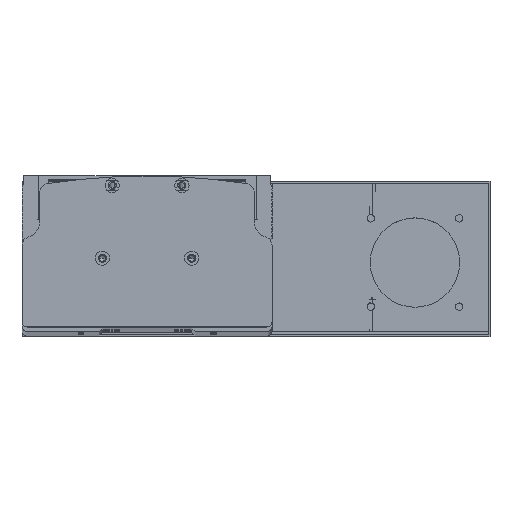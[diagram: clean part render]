
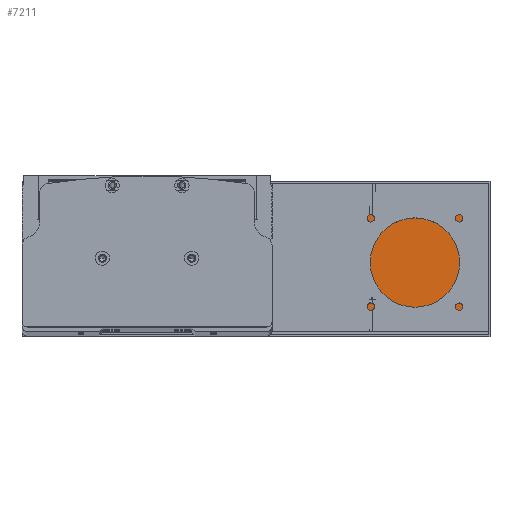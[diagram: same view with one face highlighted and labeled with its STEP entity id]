
A CAD part, top view. The second image highlights one B-rep face of the part: STEP entity #7211.
In plain terms, the highlighted planar face has unit normal (0, 0, 1).
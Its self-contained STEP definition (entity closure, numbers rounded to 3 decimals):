
#57 = DIRECTION ( 'NONE',  ( -1., 0., 0. ) ) ;
#137 = EDGE_CURVE ( 'NONE', #17990, #4711, #32918, .T. ) ;
#870 = VERTEX_POINT ( 'NONE', #25156 ) ;
#1466 = VERTEX_POINT ( 'NONE', #17331 ) ;
#3665 = CARTESIAN_POINT ( 'NONE',  ( 0., 0., 0. ) ) ;
#3732 = ORIENTED_EDGE ( 'NONE', *, *, #8916, .T. ) ;
#4251 = CARTESIAN_POINT ( 'NONE',  ( 130., -42.5, 0. ) ) ;
#4711 = VERTEX_POINT ( 'NONE', #25789 ) ;
#6690 = DIRECTION ( 'NONE',  ( 1., 0., 0. ) ) ;
#7211 = ADVANCED_FACE ( 'NONE', ( #27832 ), #21636, .T. ) ;
#8505 = AXIS2_PLACEMENT_3D ( 'NONE', #3665, #24770, #6690 ) ;
#8916 = EDGE_CURVE ( 'NONE', #870, #17990, #25421, .T. ) ;
#9020 = DIRECTION ( 'NONE',  ( 1., 0., 0. ) ) ;
#9339 = ORIENTED_EDGE ( 'NONE', *, *, #36935, .T. ) ;
#10568 = EDGE_CURVE ( 'NONE', #4711, #1466, #34703, .T. ) ;
#12715 = CARTESIAN_POINT ( 'NONE',  ( -130., -42.5, 0. ) ) ;
#14859 = ORIENTED_EDGE ( 'NONE', *, *, #10568, .T. ) ;
#16437 = VECTOR ( 'NONE', #33788, 1000. ) ;
#17331 = CARTESIAN_POINT ( 'NONE',  ( 130., 42.5, 0. ) ) ;
#17990 = VERTEX_POINT ( 'NONE', #26914 ) ;
#18122 = CARTESIAN_POINT ( 'NONE',  ( -130., 42.5, 0. ) ) ;
#18476 = VECTOR ( 'NONE', #57, 1000. ) ;
#20767 = ORIENTED_EDGE ( 'NONE', *, *, #137, .T. ) ;
#21636 = PLANE ( 'NONE',  #8505 ) ;
#24091 = CARTESIAN_POINT ( 'NONE',  ( -130., -42.5, 0. ) ) ;
#24770 = DIRECTION ( 'NONE',  ( 0., 0., 1. ) ) ;
#25156 = CARTESIAN_POINT ( 'NONE',  ( -130., 42.5, 0. ) ) ;
#25421 = LINE ( 'NONE', #12715, #16437 ) ;
#25686 = EDGE_LOOP ( 'NONE', ( #20767, #14859, #9339, #3732 ) ) ;
#25789 = CARTESIAN_POINT ( 'NONE',  ( 130., -42.5, 0. ) ) ;
#26914 = CARTESIAN_POINT ( 'NONE',  ( -130., -42.5, 0. ) ) ;
#27637 = VECTOR ( 'NONE', #31248, 1000. ) ;
#27832 = FACE_OUTER_BOUND ( 'NONE', #25686, .T. ) ;
#31248 = DIRECTION ( 'NONE',  ( 0., 1., 0. ) ) ;
#31951 = VECTOR ( 'NONE', #9020, 1000. ) ;
#32918 = LINE ( 'NONE', #24091, #31951 ) ;
#33788 = DIRECTION ( 'NONE',  ( 0., -1., 0. ) ) ;
#34525 = LINE ( 'NONE', #18122, #18476 ) ;
#34703 = LINE ( 'NONE', #4251, #27637 ) ;
#36935 = EDGE_CURVE ( 'NONE', #1466, #870, #34525, .T. ) ;
